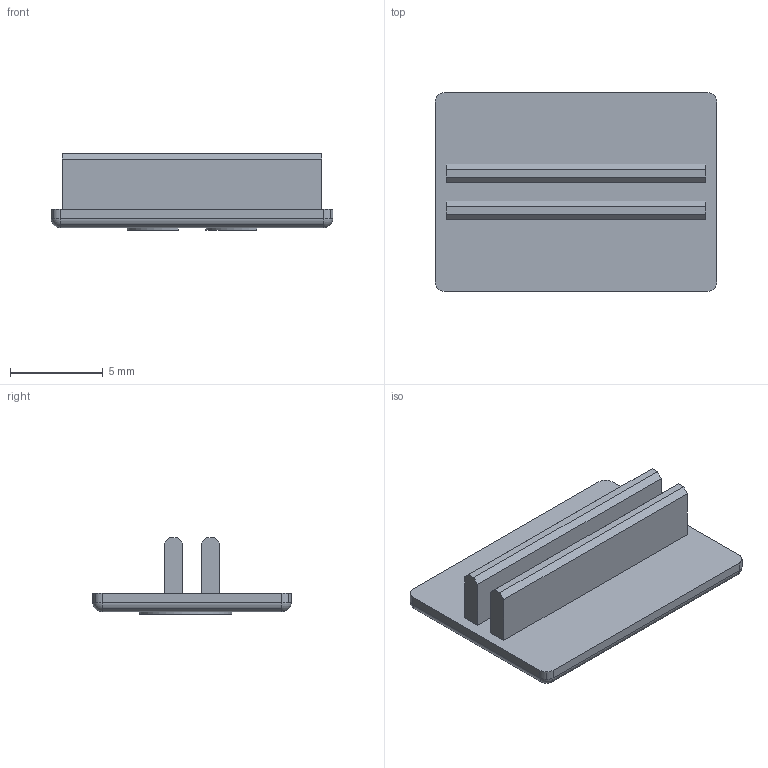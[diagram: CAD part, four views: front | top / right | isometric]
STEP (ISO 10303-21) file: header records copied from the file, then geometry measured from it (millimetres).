
FILE_DESCRIPTION (( 'STEP AP214' ), '1' );
FILE_NAME ('RIC-EK-40.STEP', '2024-04-11T06:55:00', ( '' ), ( '' ), 'SwSTEP 2.0', 'SolidWorks 2022', '' );
FILE_SCHEMA (( 'AUTOMOTIVE_DESIGN' ));
Length unit declared in the file: millimetre
Products named in the file (1): RIC-EK-40
Bounding box: 15.2 x 10.7 x 4.15 mm (x, y, z)
Volume: 243 mm3; surface area: 539.7 mm2
Topology: 1 solids, 1 shells, 55 faces, 139 edges, 86 vertices
Faces by surface type: plane 29, cylinder 22, sphere 4
Entity records: 1651 total; most frequent: DIRECTION 291, CARTESIAN_POINT 277, ORIENTED_EDGE 270, EDGE_CURVE 135, AXIS2_PLACEMENT_3D 100, LINE 91, VECTOR 91, VERTEX_POINT 86
